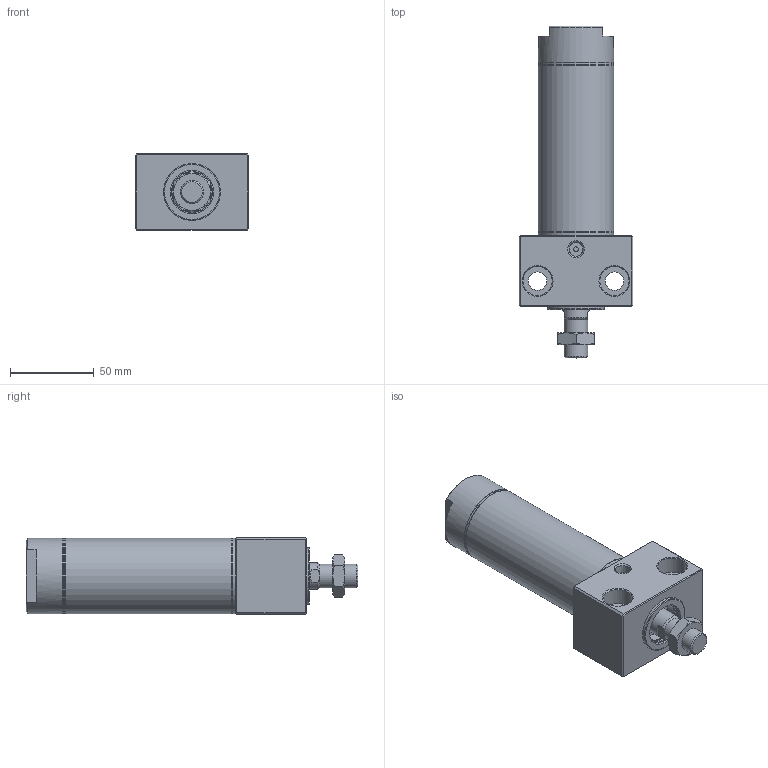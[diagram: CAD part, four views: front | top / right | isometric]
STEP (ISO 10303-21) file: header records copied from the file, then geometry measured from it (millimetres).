
FILE_DESCRIPTION((''),'2;1');
FILE_NAME('I:\3D電子目錄\氣缸\DBS\DBS\DBS40x50.stp','2007-10-08T08:48:53',('Administrator'),(''),'Autodesk Inventor 2008','Autodesk Inventor 2008','');
FILE_SCHEMA(('AUTOMOTIVE_DESIGN { 1 0 10303 214 1 1 1 1 }'));
Length unit declared in the file: millimetre
Products named in the file (1): DBS40x50
Bounding box: 68 x 198.6 x 46 mm (x, y, z)
Volume: 217990.9 mm3; surface area: 70586 mm2
Topology: 6 solids, 6 shells, 166 faces, 323 edges, 195 vertices
Faces by surface type: plane 74, cone 41, cylinder 35, bspline 13, torus 3
Full cylindrical faces by diameter (mm): 3 x1, 10.5 x1, 12 x1, 13 x1, 14 x2, 16 x1, 16.5 x1, 18 x1, 21 x2, 24 x3, 26 x2, 27.5 x1, 28 x2, 34 x1, 38 x2, 38.5 x2, 40 x1, 42.2 x6, 45 x4
Entity records: 3958 total; most frequent: CARTESIAN_POINT 865, DIRECTION 652, ORIENTED_EDGE 488, AXIS2_PLACEMENT_3D 287, EDGE_LOOP 280, EDGE_CURVE 244, VERTEX_POINT 188, FACE_OUTER_BOUND 166
